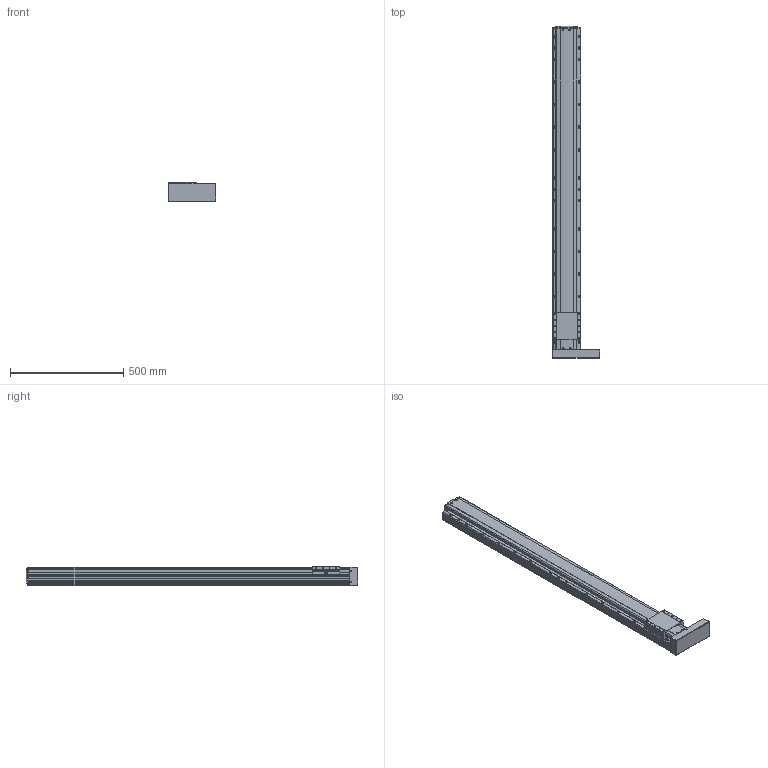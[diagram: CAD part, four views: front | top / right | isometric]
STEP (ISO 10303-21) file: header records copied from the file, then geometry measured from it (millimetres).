
FILE_DESCRIPTION(('STEP AP214'),'1');
FILE_NAME('Z:/Web/3D/PSA125/STP/PSA125-1200 (3D)/PSA125ㅁㅁ-1200PR.stp','2014-06-23T05:58:29',(' '),(' '),'Spatial InterOp 3D',' ',' ');
FILE_SCHEMA(('automotive_design'));
Length unit declared in the file: millimetre
Products named in the file (23): 스크루 : Round - M4.0 x 10.0; RRCV-PA120; SLIDE; BASE; FRCV-PA120-1(기준 뿔 제거); RR1500; 스크루 : Round - M4.0 x 6.0; 너트 : Square - M10.0 x 220.7419; BTCV - 60A; 스크루 : Round - M3.0 x 6.0
Bounding box: 212.13 x 1468.6 x 86 mm (x, y, z)
Volume: 12506042.4 mm3; surface area: 955938.2 mm2
Topology: 23 solids, 23 shells, 2090 faces, 5617 edges, 3558 vertices
Faces by surface type: plane 1070, cylinder 676, cone 244, sphere 44, bspline 31, torus 25
Entity records: 83790 total; most frequent: CARTESIAN_POINT 14064, DIRECTION 11125, ORIENTED_EDGE 10910, EDGE_CURVE 5455, AXIS2_PLACEMENT_3D 3784, VERTEX_POINT 3558, LINE 3557, VECTOR 3557
